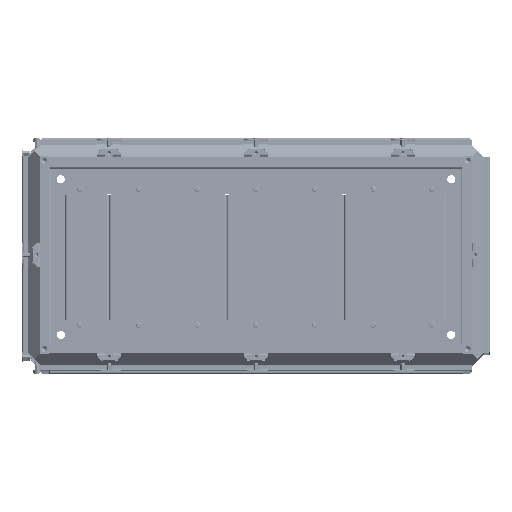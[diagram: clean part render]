
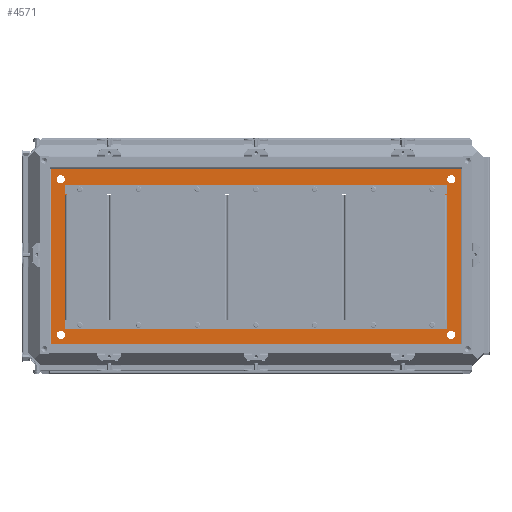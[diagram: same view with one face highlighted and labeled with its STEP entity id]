
A CAD part, top view. The second image highlights one B-rep face of the part: STEP entity #4571.
In plain terms, the highlighted planar face has unit normal (0, 0, 1).
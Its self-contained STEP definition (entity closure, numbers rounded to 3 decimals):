
#4571=ADVANCED_FACE('',(#18025,#18027,#18029,#18031,#18033,#18035),#18037,.F.);
#18025=FACE_BOUND('',#18026,.T.);
#18026=EDGE_LOOP('',(#122197,#122198,#122199,#122200));
#18027=FACE_BOUND('',#18028,.T.);
#18028=EDGE_LOOP('',(#122201,#122202,#122203,#122204));
#18029=FACE_BOUND('',#18030,.T.);
#18030=EDGE_LOOP('',(#122205));
#18031=FACE_BOUND('',#18032,.T.);
#18032=EDGE_LOOP('',(#122206));
#18033=FACE_BOUND('',#18034,.T.);
#18034=EDGE_LOOP('',(#122207));
#18035=FACE_BOUND('',#18036,.T.);
#18036=EDGE_LOOP('',(#122208));
#18037=PLANE('',#18038);
#18038=AXIS2_PLACEMENT_3D('',#18039,#18040,#18041);
#18039=CARTESIAN_POINT('',(0.,0.,-47.5));
#18040=DIRECTION('',(0.,0.,-1.));
#18041=DIRECTION('',(0.,1.,0.));
#122197=ORIENTED_EDGE('',*,*,#185659,.F.);
#122198=ORIENTED_EDGE('',*,*,#185660,.F.);
#122199=ORIENTED_EDGE('',*,*,#185661,.T.);
#122200=ORIENTED_EDGE('',*,*,#185662,.T.);
#122201=ORIENTED_EDGE('',*,*,#185663,.T.);
#122202=ORIENTED_EDGE('',*,*,#185664,.F.);
#122203=ORIENTED_EDGE('',*,*,#185665,.F.);
#122204=ORIENTED_EDGE('',*,*,#185666,.F.);
#122205=ORIENTED_EDGE('',*,*,#185667,.T.);
#122206=ORIENTED_EDGE('',*,*,#185668,.F.);
#122207=ORIENTED_EDGE('',*,*,#185669,.F.);
#122208=ORIENTED_EDGE('',*,*,#185670,.T.);
#185659=EDGE_CURVE('',#218290,#218291,#218292,.F.);
#185660=EDGE_CURVE('',#218293,#218290,#218294,.F.);
#185661=EDGE_CURVE('',#218293,#218295,#218296,.F.);
#185662=EDGE_CURVE('',#218295,#218291,#218297,.F.);
#185663=EDGE_CURVE('',#218298,#218299,#218300,.F.);
#185664=EDGE_CURVE('',#218301,#218299,#218302,.F.);
#185665=EDGE_CURVE('',#218303,#218301,#218304,.F.);
#185666=EDGE_CURVE('',#218298,#218303,#218305,.F.);
#185667=EDGE_CURVE('',#218306,#218306,#218307,.T.);
#185668=EDGE_CURVE('',#218308,#218308,#218309,.T.);
#185669=EDGE_CURVE('',#218310,#218310,#218311,.T.);
#185670=EDGE_CURVE('',#218312,#218312,#218313,.T.);
#218290=VERTEX_POINT('',#275059);
#218291=VERTEX_POINT('',#275060);
#218292=LINE('',#275061,#275062);
#218293=VERTEX_POINT('',#275064);
#218294=LINE('',#275065,#275066);
#218295=VERTEX_POINT('',#275068);
#218296=LINE('',#275069,#275070);
#218297=LINE('',#275072,#275073);
#218298=VERTEX_POINT('',#275075);
#218299=VERTEX_POINT('',#275076);
#218300=LINE('',#275077,#275078);
#218301=VERTEX_POINT('',#275080);
#218302=LINE('',#275081,#275082);
#218303=VERTEX_POINT('',#275084);
#218304=LINE('',#275085,#275086);
#218305=LINE('',#275088,#275089);
#218306=VERTEX_POINT('',#275091);
#218307=CIRCLE('',#275092,7.);
#218308=VERTEX_POINT('',#275096);
#218309=CIRCLE('',#275097,7.);
#218310=VERTEX_POINT('',#275101);
#218311=CIRCLE('',#275102,7.);
#218312=VERTEX_POINT('',#275106);
#218313=CIRCLE('',#275107,7.);
#275059=CARTESIAN_POINT('',(-1.6,1.6,-47.5));
#275060=CARTESIAN_POINT('',(-700.4,1.6,-47.5));
#275061=CARTESIAN_POINT('',(-700.4,1.6,-47.5));
#275062=VECTOR('',#275063,1.);
#275063=DIRECTION('',(1.,0.,0.));
#275064=CARTESIAN_POINT('',(-1.6,300.4,-47.5));
#275065=CARTESIAN_POINT('',(-1.6,1.6,-47.5));
#275066=VECTOR('',#275067,1.);
#275067=DIRECTION('',(0.,1.,0.));
#275068=CARTESIAN_POINT('',(-700.4,300.4,-47.5));
#275069=CARTESIAN_POINT('',(-700.4,300.4,-47.5));
#275070=VECTOR('',#275071,1.);
#275071=DIRECTION('',(1.,0.,0.));
#275072=CARTESIAN_POINT('',(-700.4,1.6,-47.5));
#275073=VECTOR('',#275074,1.);
#275074=DIRECTION('',(0.,1.,0.));
#275075=CARTESIAN_POINT('',(-39.4,39.4,-47.5));
#275076=CARTESIAN_POINT('',(-662.6,39.4,-47.5));
#275077=CARTESIAN_POINT('',(-662.6,39.4,-47.5));
#275078=VECTOR('',#275079,1.);
#275079=DIRECTION('',(1.,0.,0.));
#275080=CARTESIAN_POINT('',(-662.6,262.6,-47.5));
#275081=CARTESIAN_POINT('',(-662.6,39.4,-47.5));
#275082=VECTOR('',#275083,1.);
#275083=DIRECTION('',(0.,1.,0.));
#275084=CARTESIAN_POINT('',(-39.4,262.6,-47.5));
#275085=CARTESIAN_POINT('',(-662.6,262.6,-47.5));
#275086=VECTOR('',#275087,1.);
#275087=DIRECTION('',(1.,0.,0.));
#275088=CARTESIAN_POINT('',(-39.4,262.6,-47.5));
#275089=VECTOR('',#275090,1.);
#275090=DIRECTION('',(0.,-1.,0.));
#275091=CARTESIAN_POINT('',(-18.5,25.5,-47.5));
#275092=AXIS2_PLACEMENT_3D('',#275093,#275094,#275095);
#275093=CARTESIAN_POINT('',(-18.5,18.5,-47.5));
#275094=DIRECTION('',(0.,0.,-1.));
#275095=DIRECTION('',(0.,1.,0.));
#275096=CARTESIAN_POINT('',(-683.5,25.5,-47.5));
#275097=AXIS2_PLACEMENT_3D('',#275098,#275099,#275100);
#275098=CARTESIAN_POINT('',(-683.5,18.5,-47.5));
#275099=DIRECTION('',(0.,0.,1.));
#275100=DIRECTION('',(0.,1.,0.));
#275101=CARTESIAN_POINT('',(-18.5,276.5,-47.5));
#275102=AXIS2_PLACEMENT_3D('',#275103,#275104,#275105);
#275103=CARTESIAN_POINT('',(-18.5,283.5,-47.5));
#275104=DIRECTION('',(0.,0.,1.));
#275105=DIRECTION('',(0.,-1.,0.));
#275106=CARTESIAN_POINT('',(-683.5,276.5,-47.5));
#275107=AXIS2_PLACEMENT_3D('',#275108,#275109,#275110);
#275108=CARTESIAN_POINT('',(-683.5,283.5,-47.5));
#275109=DIRECTION('',(0.,0.,-1.));
#275110=DIRECTION('',(0.,-1.,0.));
